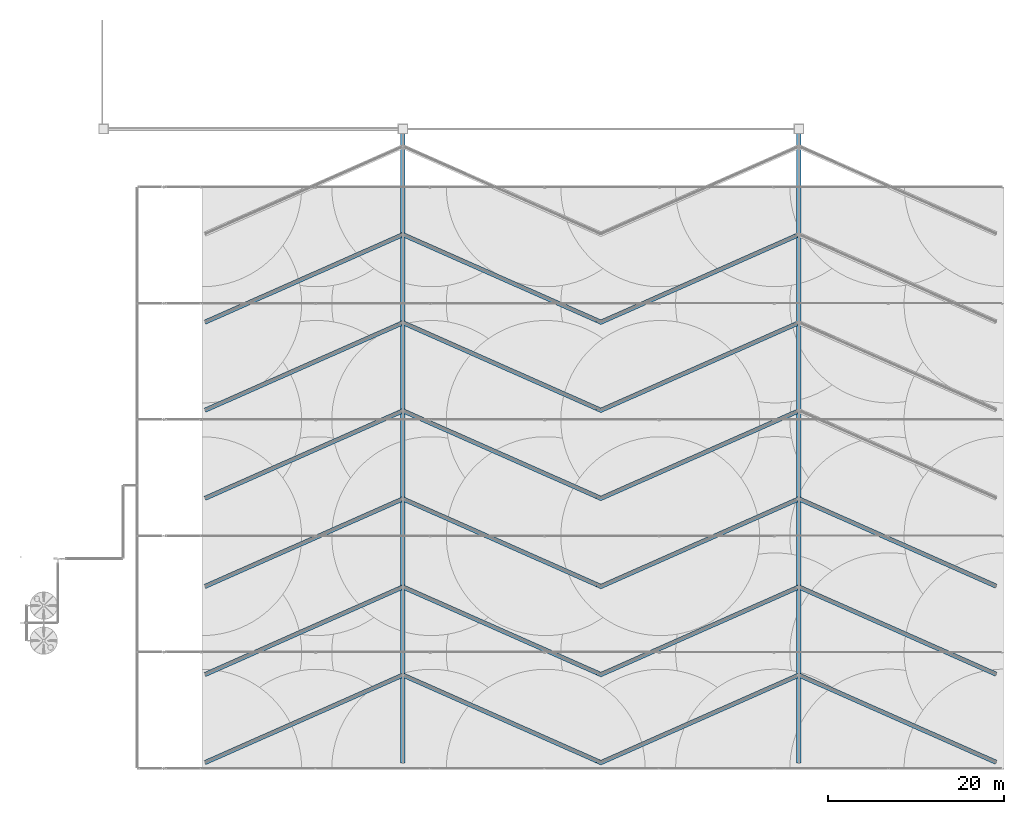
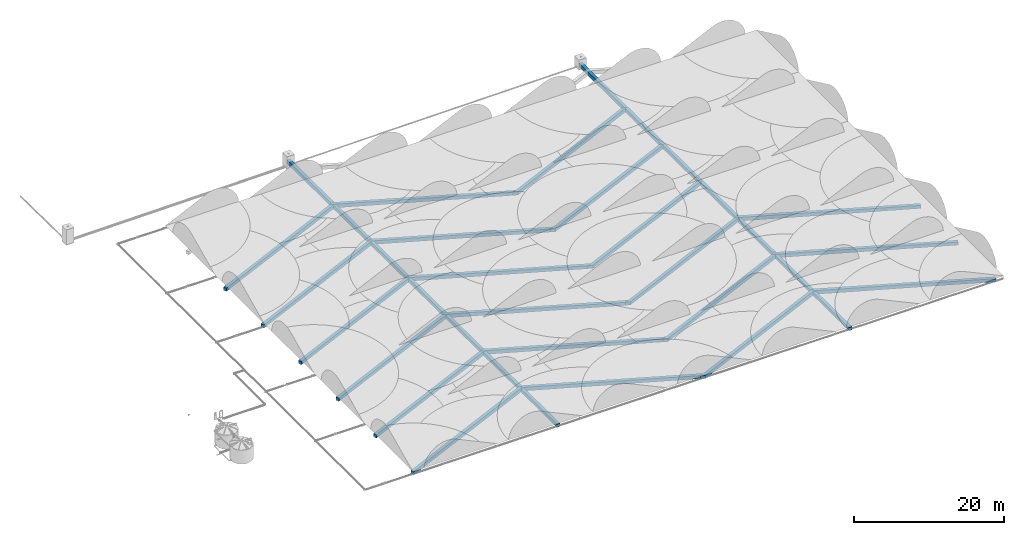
# One storey, part 1 of 166: 23 walls.
"""IFC2X3 building model written with IfcOpenShell, lengths in metres."""

from ifc_helpers import new_model, entity, si_unit, converted_unit, direction, frame, frame_2d, origin, place, context, subcontext, project, spatial, rectangle, extrude, clip, halfspace, faceted_brep, material, layer, layer_set, layer_usage, type_object, element, save


model = new_model("IFC2X3")

# Units and contexts
model_context = context("Model", 3, precision=1e-05, world=origin(), true_north=direction((6.123233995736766e-17, 1.0)))
body_context = subcontext(model_context, "Body", "Model", "MODEL_VIEW")
ifc_project = project(units=[si_unit("LENGTHUNIT", "METRE"), converted_unit("PLANEANGLEUNIT", "DEGREE", entity("IfcPlaneAngleMeasure", 0.017453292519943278), si_unit("PLANEANGLEUNIT", "RADIAN"), dimensions=[0, 0, 0, 0, 0, 0, 0]), si_unit("AREAUNIT", "SQUARE_METRE")], contexts=[model_context])

# Site, building, storey
site_placement = place(None, origin())
site = spatial("IfcSite", under=ifc_project, at=site_placement, Name="Default", CompositionType="ELEMENT")
building_placement = place(site_placement, origin())
building = spatial("IfcBuilding", under=site, at=building_placement, Name="CASA DE ACOLHIDA PARA IDOSOS", CompositionType="ELEMENT")
storey_placement = place(building_placement, frame((0.0, 0.0, -1.7499999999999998)))
storey = spatial("IfcBuildingStorey", under=building, at=storey_placement, Name="IMPLANTAÇÃO DRENAGEM", CompositionType="ELEMENT", Elevation=-1.7499999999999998)

# Walls
ifc_material = material(Name="Generic")
ifc_layer = layer(ifc_material, 0.49999999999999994)
ifc_layer_set = layer_set([ifc_layer], Name="Parede básica:BRITA - 40 CM")
ifc_layer_usage_1 = layer_usage(ifc_layer_set, "AXIS2", "NEGATIVE", 0.24999999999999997)
wall_type = type_object("IfcWallType", Name="Parede básica:BRITA - 40 CM", PredefinedType="STANDARD", material=ifc_layer_set)
wall_1_placement = place(storey_placement, frame((45.35555726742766, -16.046942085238, -0.9449877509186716), z_axis=(0.0, 0.0, 1.0), x_axis=(-0.9145357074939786, 0.404505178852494, 0.0)))
element("IfcWallStandardCase", 1, at=wall_1_placement, inside=storey, type_object=wall_type, material=ifc_layer_usage_1, Name="Parede básica:BRITA - 40 CM", ObjectType="Parede básica:BRITA - 40 CM", context=body_context, shape_type="Clipping", body=[
    clip(clip(extrude(rectangle(XDim=24.498775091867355, YDim=0.5000000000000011, at=frame_2d((12.249387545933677, 5.551115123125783e-16), x_axis=(-1.0, 0.0))), origin(), (0.0, 0.0, 1.0), 0.7449877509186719), halfspace(frame((0.0, -0.2499999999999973, 0.7449877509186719), z_axis=(0.005918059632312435, 0.0, 0.9999824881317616), x_axis=(0.0, 1.0, 0.0)), False)), halfspace(frame((24.498775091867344, -0.24999999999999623, 0.0), z_axis=(-0.009999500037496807, 0.0, -0.9999500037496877), x_axis=(0.0, 1.0, 0.0)), False)),
])
wall_2_placement = place(storey_placement, frame((45.35555726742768, -6.046942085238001, -1.043358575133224), z_axis=(0.0, 0.0, 1.0), x_axis=(-0.9145357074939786, 0.404505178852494, 0.0)))
element("IfcWall", 2, at=wall_2_placement, inside=storey, type_object=wall_type, Name="Parede básica:BRITA - 40 CM", ObjectType="Parede básica:BRITA - 40 CM", context=body_context, shape_type="Brep", body=[
    faceted_brep([(0.0, -0.2500000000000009, 0.2433585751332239), (24.31621854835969, -0.2500000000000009, 0.0), (24.31621854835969, -0.2500000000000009, 0.5244371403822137), (24.58958130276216, -0.2500000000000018, 0.5244371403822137), (24.58958130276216, -0.2500000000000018, 0.5977158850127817), (0.0, -0.24999999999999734, 0.7433585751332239), (0.0, 0.2499999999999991, 0.2433585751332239), (0.0, 0.2500000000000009, 0.7433585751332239), (25.04422344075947, 0.25, 0.5950230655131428), (25.044223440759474, 0.25000000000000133, 0.5244371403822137), (24.641790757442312, 0.25000000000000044, 0.5244371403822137), (24.368428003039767, 0.2499999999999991, 0.5244371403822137), (24.095065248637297, 0.25000000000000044, 0.5244371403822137), (24.095065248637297, 0.25000000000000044, 0.0022133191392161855), (24.77348640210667, -0.047747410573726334, 0.5244371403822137)], [[[0, 1, 2, 3, 4, 5]], [[6, 7, 8, 9, 10, 11, 12, 13]], [[0, 5, 7, 6]], [[1, 0, 6, 13]], [[5, 4, 8, 7]], [[1, 13, 12, 2]], [[4, 3, 14, 9, 8]], [[9, 14, 3, 2, 12, 11, 10]]]),
])
wall_3_placement = place(storey_placement, frame((45.35555726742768, 3.9530579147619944, -1.143358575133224), z_axis=(0.0, 0.0, 1.0), x_axis=(-0.9145357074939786, 0.404505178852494, 0.0)))
element("IfcWall", 3, at=wall_3_placement, inside=storey, type_object=wall_type, Name="Parede básica:BRITA - 40 CM", ObjectType="Parede básica:BRITA - 40 CM", context=body_context, shape_type="Brep", body=[
    faceted_brep([(0.0, -0.2500000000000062, 0.24335857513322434), (24.316218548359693, -0.2500000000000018, 0.0), (24.316218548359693, -0.25000000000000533, 0.5383267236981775), (24.589581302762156, -0.2500000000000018, 0.5383267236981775), (24.589581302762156, -0.2500000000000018, 0.5977158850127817), (0.0, -0.25000000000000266, 0.7433585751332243), (0.0, 0.2499999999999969, 0.24335857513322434), (0.0, 0.2500000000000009, 0.7433585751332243), (25.044223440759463, 0.24999999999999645, 0.5950230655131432), (25.044223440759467, 0.25, 0.5383267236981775), (24.641790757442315, 0.25, 0.5383267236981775), (24.36842800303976, 0.24999999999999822, 0.5383267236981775), (24.095065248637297, 0.24999999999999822, 0.5383267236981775), (24.095065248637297, 0.24999999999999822, 0.0022133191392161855), (24.77348640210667, -0.04774741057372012, 0.5383267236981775)], [[[0, 1, 2, 3, 4, 5]], [[6, 7, 8, 9, 10, 11, 12, 13]], [[0, 5, 7, 6]], [[1, 0, 6, 13]], [[5, 4, 8, 7]], [[1, 13, 12, 2]], [[4, 3, 14, 9, 8]], [[9, 14, 3, 2, 12, 11, 10]]]),
])
wall_4_placement = place(storey_placement, frame((-0.023279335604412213, -16.31453267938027, -0.9449877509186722), z_axis=(0.0, 0.0, 1.0), x_axis=(0.9145357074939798, 0.40450517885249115, 0.0)))
element("IfcWall", 4, at=wall_4_placement, inside=storey, type_object=wall_type, Name="Parede básica:BRITA - 40 CM", ObjectType="Parede básica:BRITA - 40 CM", context=body_context, shape_type="Brep", body=[
    faceted_brep([(0.45464213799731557, -0.25, 0.2460935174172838), (25.063993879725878, -0.25, 0.0), (25.063993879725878, -0.25, 0.600000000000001), (0.45464213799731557, -0.25, 0.7456421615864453), (0.0, 0.24999999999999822, 0.2506399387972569), (0.0, 0.2500000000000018, 0.7416426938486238), (0.0, 0.24999999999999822, 0.7483328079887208), (25.063993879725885, 0.24999999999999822, 0.600000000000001), (25.063993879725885, 0.24999999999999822, 0.0)], [[[0, 1, 2, 3]], [[4, 5, 6, 7, 8]], [[1, 0, 4, 8]], [[2, 1, 8, 7]], [[3, 2, 7, 6]], [[0, 3, 6, 5, 4]]]),
])
wall_5_placement = place(storey_placement, frame((-0.02327933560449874, -6.314532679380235, -1.0433649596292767), z_axis=(0.0, 0.0, 1.0), x_axis=(0.9145357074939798, 0.40450517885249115, 0.0)))
element("IfcWall", 5, at=wall_5_placement, inside=storey, type_object=wall_type, Name="Parede básica:BRITA - 40 CM", ObjectType="Parede básica:BRITA - 40 CM", context=body_context, shape_type="Brep", body=[
    faceted_brep([(0.45464213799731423, -0.2500000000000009, 0.24446728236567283), (24.756591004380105, -0.2500000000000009, 0.0022046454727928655), (24.756591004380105, -0.25000000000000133, 0.5244435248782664), (25.02995375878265, -0.2500000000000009, 0.5244435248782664), (25.02995375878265, -0.2500000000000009, 0.599029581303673), (0.45464213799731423, -0.2500000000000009, 0.7440173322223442), (0.0, 0.2499999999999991, 0.2489995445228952), (0.0, 0.2499999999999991, 0.7400303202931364), (0.0, 0.2500000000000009, 0.7466995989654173), (24.575311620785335, 0.24999999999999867, 0.601711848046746), (24.575311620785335, 0.24999999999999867, 0.5950294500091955), (24.575311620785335, 0.24999999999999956, 0.5244435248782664), (24.977744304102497, 0.24999999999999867, 0.5244435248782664), (24.977744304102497, 0.24999999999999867, 0.0), (24.84604865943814, -0.04774741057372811, 0.5244435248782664)], [[[0, 1, 2, 3, 4, 5]], [[6, 7, 8, 9, 10, 11, 12, 13]], [[1, 0, 6, 13]], [[5, 4, 9, 8]], [[1, 13, 12, 14, 2]], [[4, 3, 14, 11, 10, 9]], [[11, 14, 12]], [[14, 3, 2]], [[0, 5, 8, 7, 6]]]),
])
wall_6_placement = place(storey_placement, frame((-0.02327933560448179, 3.685467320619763, -1.1433649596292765), z_axis=(0.0, 0.0, 1.0), x_axis=(0.9145357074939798, 0.40450517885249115, 0.0)))
element("IfcWall", 6, at=wall_6_placement, inside=storey, type_object=wall_type, Name="Parede básica:BRITA - 40 CM", ObjectType="Parede básica:BRITA - 40 CM", context=body_context, shape_type="Brep", body=[
    faceted_brep([(0.4546421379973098, -0.25000000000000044, 0.24446728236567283), (24.756591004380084, -0.2500000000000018, 0.0022046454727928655), (24.756591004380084, -0.24999999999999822, 0.5383331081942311), (25.029953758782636, -0.2500000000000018, 0.5383331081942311), (25.029953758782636, -0.2500000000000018, 0.599029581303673), (0.4546421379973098, -0.25000000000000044, 0.7440173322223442), (0.0, 0.24999999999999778, 0.2489995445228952), (0.0, 0.24999999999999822, 0.7400303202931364), (0.0, 0.25, 0.7466995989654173), (24.575311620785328, 0.24999999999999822, 0.601711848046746), (24.575311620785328, 0.24999999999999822, 0.5950294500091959), (24.57531162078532, 0.25, 0.5383331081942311), (24.977744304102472, 0.24999999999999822, 0.5383331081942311), (24.977744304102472, 0.24999999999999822, 0.0), (24.84604865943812, -0.04774741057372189, 0.5383331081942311)], [[[0, 1, 2, 3, 4, 5]], [[6, 7, 8, 9, 10, 11, 12, 13]], [[1, 0, 6, 13]], [[5, 4, 9, 8]], [[1, 13, 12, 14, 2]], [[4, 3, 14, 11, 10, 9]], [[11, 14, 12]], [[14, 3, 2]], [[0, 5, 8, 7, 6]]]),
])
wall_7_placement = place(storey_placement, frame((-0.023279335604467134, 13.685467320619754, -1.2433649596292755), z_axis=(0.0, 0.0, 1.0), x_axis=(0.9145357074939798, 0.40450517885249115, 0.0)))
element("IfcWall", 7, at=wall_7_placement, inside=storey, type_object=wall_type, Name="Parede básica:BRITA - 40 CM", ObjectType="Parede básica:BRITA - 40 CM", context=body_context, shape_type="Brep", body=[
    faceted_brep([(0.4546421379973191, -0.24999999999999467, 0.24446728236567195), (24.75659100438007, -0.24999999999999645, 0.0022046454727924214), (24.75659100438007, -0.24999999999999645, 0.5522226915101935), (25.02995375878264, -0.25, 0.5522226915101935), (25.02995375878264, -0.25, 0.5990295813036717), (0.4546421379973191, -0.24999999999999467, 0.7440173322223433), (0.0, 0.25000000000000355, 0.24899954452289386), (0.0, 0.25000000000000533, 0.7400303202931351), (0.0, 0.25000000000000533, 0.7466995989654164), (24.575311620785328, 0.25, 0.6017118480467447), (24.575311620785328, 0.25, 0.5950294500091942), (24.57531162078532, 0.2500000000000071, 0.5522226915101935), (24.977744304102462, 0.25000000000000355, 0.5522226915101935), (24.977744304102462, 0.25000000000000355, 0.0), (24.846048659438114, -0.047747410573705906, 0.5522226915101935)], [[[0, 1, 2, 3, 4, 5]], [[6, 7, 8, 9, 10, 11, 12, 13]], [[1, 0, 6, 13]], [[5, 4, 9, 8]], [[1, 13, 12, 14, 2]], [[4, 3, 14, 11, 10, 9]], [[11, 14, 12]], [[14, 3, 2]], [[0, 5, 8, 7, 6]]]),
])
wall_8_placement = place(storey_placement, frame((-0.023279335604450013, 23.685467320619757, -1.3433649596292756), z_axis=(0.0, 0.0, 1.0), x_axis=(0.9145357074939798, 0.40450517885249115, 0.0)))
element("IfcWall", 8, at=wall_8_placement, inside=storey, type_object=wall_type, Name="Parede básica:BRITA - 40 CM", ObjectType="Parede básica:BRITA - 40 CM", context=body_context, shape_type="Brep", body=[
    faceted_brep([(0.4546421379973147, -0.24999999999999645, 0.24446728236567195), (24.756591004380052, -0.24999999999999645, 0.0022046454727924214), (24.756591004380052, -0.24999999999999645, 0.5661122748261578), (25.029953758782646, -0.24999999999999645, 0.5661122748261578), (25.029953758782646, -0.24999999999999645, 0.5990295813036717), (0.4546421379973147, -0.24999999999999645, 0.7440173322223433), (0.0, 0.25, 0.24899954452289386), (0.0, 0.24999999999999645, 0.7400303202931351), (0.0, 0.24999999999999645, 0.7466995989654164), (24.575311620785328, 0.25, 0.6017118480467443), (24.575311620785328, 0.25, 0.5950294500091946), (24.575311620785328, 0.25, 0.5661122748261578), (24.977744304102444, 0.25, 0.5661122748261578), (24.977744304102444, 0.25, 0.0), (24.846048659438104, -0.04774741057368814, 0.5661122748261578)], [[[0, 1, 2, 3, 4, 5]], [[6, 7, 8, 9, 10, 11, 12, 13]], [[1, 0, 6, 13]], [[5, 4, 9, 8]], [[1, 13, 12, 14, 2]], [[4, 3, 14, 11, 10, 9]], [[11, 14, 12]], [[14, 3, 2]], [[0, 5, 8, 7, 6]]]),
])
wall_9_placement = place(storey_placement, frame((-0.023279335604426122, 33.68546732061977, -1.4433649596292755), z_axis=(0.0, 0.0, 1.0), x_axis=(0.9145357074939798, 0.40450517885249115, 0.0)))
element("IfcWall", 9, at=wall_9_placement, inside=storey, type_object=wall_type, Name="Parede básica:BRITA - 40 CM", ObjectType="Parede básica:BRITA - 40 CM", context=body_context, shape_type="Brep", body=[
    faceted_brep([(0.4546421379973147, -0.25000000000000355, 0.24446728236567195), (24.756591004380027, -0.2500000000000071, 0.0022046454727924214), (24.756591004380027, -0.2500000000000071, 0.580001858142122), (25.02995375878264, -0.2500000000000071, 0.580001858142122), (25.02995375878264, -0.2500000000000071, 0.5990295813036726), (0.4546421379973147, -0.25000000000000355, 0.7440173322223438), (0.0, 0.2499999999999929, 0.24899954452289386), (0.0, 0.24999999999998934, 0.7400303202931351), (0.0, 0.24999999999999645, 0.7466995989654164), (24.575311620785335, 0.2499999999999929, 0.6017118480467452), (24.575311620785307, 0.2500000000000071, 0.580001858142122), (24.977744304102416, 0.2499999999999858, 0.580001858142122), (24.977744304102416, 0.2499999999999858, 0.0), (24.846048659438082, -0.047747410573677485, 0.580001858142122)], [[[0, 1, 2, 3, 4, 5]], [[6, 7, 8, 9, 10, 11, 12]], [[1, 0, 6, 12]], [[5, 4, 9, 8]], [[1, 12, 11, 13, 2]], [[4, 3, 13, 10, 9]], [[10, 13, 11]], [[13, 3, 2]], [[0, 5, 8, 7, 6]]]),
])
wall_10_placement = place(storey_placement, frame((0.3925071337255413, -16.041169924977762, -0.9449877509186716), z_axis=(0.0, 0.0, 1.0), x_axis=(-0.9145357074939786, 0.404505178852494, 0.0)))
element("IfcWall", 10, at=wall_10_placement, inside=storey, type_object=wall_type, Name="Parede básica:BRITA - 40 CM", ObjectType="Parede básica:BRITA - 40 CM", context=body_context, shape_type="Brep", body=[
    faceted_brep([(0.0, -0.2500000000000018, 0.2438819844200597), (24.38819844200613, -0.2500000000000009, 0.0), (24.38819844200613, -0.2500000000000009, 0.6000000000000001), (0.0, -0.2500000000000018, 0.7443333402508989), (0.4546421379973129, 0.25, 0.23933556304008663), (0.4546421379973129, 0.25, 0.25063993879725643), (0.45464213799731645, 0.2500000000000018, 0.7416426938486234), (24.38819844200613, 0.2499999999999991, 0.6000000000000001), (24.38819844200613, 0.2499999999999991, 0.0)], [[[0, 1, 2, 3]], [[4, 5, 6, 7, 8]], [[1, 0, 4, 8]], [[2, 1, 8, 7]], [[3, 2, 7, 6]], [[0, 3, 6, 5, 4]]]),
])
wall_11_placement = place(storey_placement, frame((0.3925071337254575, -6.041169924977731, -1.0433649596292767), z_axis=(0.0, 0.0, 1.0), x_axis=(-0.9145357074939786, 0.404505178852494, 0.0)))
element("IfcWall", 11, at=wall_11_placement, inside=storey, type_object=wall_type, Name="Parede básica:BRITA - 40 CM", ObjectType="Parede básica:BRITA - 40 CM", context=body_context, shape_type="Brep", body=[
    faceted_brep([(0.0, -0.2500000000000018, 0.2422626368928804), (24.301948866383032, -0.2500000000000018, 0.0), (24.301948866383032, -0.25, 0.5244516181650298), (24.57531162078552, -0.25, 0.5244516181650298), (24.57531162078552, -0.25, 0.5977248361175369), (0.0, -0.25, 0.742712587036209), (0.45464213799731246, 0.2499999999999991, 0.2377303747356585), (0.45464213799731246, 0.2499999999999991, 0.2489995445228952), (0.45464213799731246, 0.2499999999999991, 0.7400303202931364), (25.029953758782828, 0.24999999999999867, 0.5950425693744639), (25.029953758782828, 0.2499999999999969, 0.5244516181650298), (24.627521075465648, 0.24999999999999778, 0.5244516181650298), (24.354158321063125, 0.24999999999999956, 0.5244516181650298), (24.080795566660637, 0.24999999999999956, 0.5244516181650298), (24.080795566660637, 0.2499999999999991, 0.0022046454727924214), (24.75921672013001, -0.04774741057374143, 0.5244516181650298)], [[[0, 1, 2, 3, 4, 5]], [[6, 7, 8, 9, 10, 11, 12, 13, 14]], [[1, 0, 6, 14]], [[5, 4, 9, 8]], [[10, 15, 3, 2, 13, 12, 11]], [[1, 14, 13, 2]], [[4, 3, 15, 10, 9]], [[0, 5, 8, 7, 6]]]),
])
wall_12_placement = place(storey_placement, frame((0.3925071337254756, 3.9588300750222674, -1.1433649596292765), z_axis=(0.0, 0.0, 1.0), x_axis=(-0.9145357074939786, 0.404505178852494, 0.0)))
element("IfcWall", 12, at=wall_12_placement, inside=storey, type_object=wall_type, Name="Parede básica:BRITA - 40 CM", ObjectType="Parede básica:BRITA - 40 CM", context=body_context, shape_type="Brep", body=[
    faceted_brep([(0.0, -0.2500000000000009, 0.24226263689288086), (24.30194886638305, -0.2500000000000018, 0.0), (24.30194886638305, -0.2500000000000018, 0.5383412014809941), (24.57531162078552, -0.25, 0.5383412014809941), (24.57531162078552, -0.25, 0.5977248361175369), (0.0, -0.2500000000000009, 0.7427125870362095), (0.4546421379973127, 0.25000000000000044, 0.2377303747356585), (0.45464213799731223, 0.2500000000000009, 0.2489995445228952), (0.45464213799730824, 0.2499999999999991, 0.7400303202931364), (25.02995375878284, 0.25, 0.5950425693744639), (25.02995375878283, 0.24999999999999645, 0.5383412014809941), (24.627521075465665, 0.25, 0.5383412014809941), (24.354158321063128, 0.25, 0.5383412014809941), (24.080795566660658, 0.24999999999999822, 0.5383412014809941), (24.080795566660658, 0.24999999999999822, 0.0022046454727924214), (24.759216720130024, -0.047747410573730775, 0.5383412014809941)], [[[0, 1, 2, 3, 4, 5]], [[6, 7, 8, 9, 10, 11, 12, 13, 14]], [[1, 0, 6, 14]], [[5, 4, 9, 8]], [[10, 15, 3, 2, 13, 12, 11]], [[1, 14, 13, 2]], [[4, 3, 15, 10, 9]], [[0, 5, 8, 7, 6]]]),
])
wall_13_placement = place(storey_placement, frame((0.39250713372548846, 13.958830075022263, -1.2433649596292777), z_axis=(0.0, 0.0, 1.0), x_axis=(-0.9145357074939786, 0.404505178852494, 0.0)))
element("IfcWall", 13, at=wall_13_placement, inside=storey, type_object=wall_type, Name="Parede básica:BRITA - 40 CM", ObjectType="Parede básica:BRITA - 40 CM", context=body_context, shape_type="Brep", body=[
    faceted_brep([(0.0, -0.25, 0.24226263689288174), (24.301948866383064, -0.25000000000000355, 0.0), (24.301948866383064, -0.25000000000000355, 0.5522307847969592), (24.575311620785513, -0.25, 0.5522307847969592), (24.575311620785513, -0.25, 0.5977248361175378), (0.0, -0.25, 0.7427125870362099), (0.45464213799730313, 0.25, 0.23773037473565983), (0.45464213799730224, 0.2500000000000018, 0.24899954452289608), (0.4546421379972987, 0.25, 0.7400303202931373), (25.029953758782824, 0.25, 0.5950425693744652), (25.029953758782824, 0.24999999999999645, 0.5522307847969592), (24.62752107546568, 0.24999999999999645, 0.5522307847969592), (24.35415832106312, 0.25, 0.5522307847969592), (24.080795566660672, 0.24999999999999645, 0.5522307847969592), (24.080795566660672, 0.24999999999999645, 0.0022046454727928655), (24.75921672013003, -0.04774741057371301, 0.5522307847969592)], [[[0, 1, 2, 3, 4, 5]], [[6, 7, 8, 9, 10, 11, 12, 13, 14]], [[1, 0, 6, 14]], [[5, 4, 9, 8]], [[10, 15, 3, 2, 13, 12, 11]], [[1, 14, 13, 2]], [[4, 3, 15, 10, 9]], [[0, 5, 8, 7, 6]]]),
])
wall_14_placement = place(storey_placement, frame((0.3925071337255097, 23.958830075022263, -1.3433649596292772), z_axis=(0.0, 0.0, 1.0), x_axis=(-0.9145357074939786, 0.404505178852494, 0.0)))
element("IfcWall", 14, at=wall_14_placement, inside=storey, type_object=wall_type, Name="Parede básica:BRITA - 40 CM", ObjectType="Parede básica:BRITA - 40 CM", context=body_context, shape_type="Brep", body=[
    faceted_brep([(0.0, -0.25000000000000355, 0.2422626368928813), (24.30194886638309, -0.25, 0.0), (24.30194886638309, -0.25, 0.5661203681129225), (24.575311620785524, -0.25000000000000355, 0.5661203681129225), (24.575311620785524, -0.25000000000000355, 0.5977248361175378), (0.0, -0.25000000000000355, 0.7427125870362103), (0.45464213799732, 0.25, 0.2377303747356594), (0.45464213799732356, 0.25, 0.24899954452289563), (0.45464213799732, 0.25, 0.7400303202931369), (25.02995375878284, 0.24999999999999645, 0.5950425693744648), (25.02995375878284, 0.2499999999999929, 0.5661203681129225), (24.627521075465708, 0.2499999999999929, 0.5661203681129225), (24.35415832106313, 0.24999999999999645, 0.5661203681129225), (24.080795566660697, 0.24999999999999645, 0.5661203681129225), (24.080795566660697, 0.24999999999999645, 0.0022046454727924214), (24.75921672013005, -0.047747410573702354, 0.5661203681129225)], [[[0, 1, 2, 3, 4, 5]], [[6, 7, 8, 9, 10, 11, 12, 13, 14]], [[1, 0, 6, 14]], [[5, 4, 9, 8]], [[10, 15, 3, 2, 13, 12, 11]], [[1, 14, 13, 2]], [[4, 3, 15, 10, 9]], [[0, 5, 8, 7, 6]]]),
])
wall_15_placement = place(storey_placement, frame((0.3925071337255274, 33.95883007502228, -1.4433649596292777), z_axis=(0.0, 0.0, 1.0), x_axis=(-0.9145357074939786, 0.404505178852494, 0.0)))
element("IfcWall", 15, at=wall_15_placement, inside=storey, type_object=wall_type, Name="Parede básica:BRITA - 40 CM", ObjectType="Parede básica:BRITA - 40 CM", context=body_context, shape_type="Brep", body=[
    faceted_brep([(0.0, -0.24999999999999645, 0.24226263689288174), (24.301948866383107, -0.25, 0.0), (24.301948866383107, -0.25, 0.5800099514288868), (24.575311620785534, -0.25, 0.5800099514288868), (24.575311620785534, -0.25, 0.5977248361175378), (0.0, -0.24999999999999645, 0.7427125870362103), (0.45464213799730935, 0.25000000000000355, 0.23773037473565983), (0.45464213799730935, 0.25000000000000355, 0.24899954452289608), (0.45464213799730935, 0.25000000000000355, 0.7400303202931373), (25.02995375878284, 0.2499999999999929, 0.5950425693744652), (25.029953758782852, 0.2500000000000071, 0.5800099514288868), (24.627521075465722, 0.2500000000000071, 0.5800099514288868), (24.35415832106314, 0.25, 0.5800099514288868), (24.08079556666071, 0.2500000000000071, 0.5800099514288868), (24.08079556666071, 0.2500000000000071, 0.0022046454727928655), (24.75921672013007, -0.047747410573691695, 0.5800099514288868)], [[[0, 1, 2, 3, 4, 5]], [[6, 7, 8, 9, 10, 11, 12, 13, 14]], [[1, 0, 6, 14]], [[5, 4, 9, 8]], [[10, 15, 3, 2, 13, 12, 11]], [[1, 14, 13, 2]], [[4, 3, 15, 10, 9]], [[0, 5, 8, 7, 6]]]),
])
ifc_layer_usage_2 = layer_usage(ifc_layer_set, "AXIS2", "POSITIVE", -0.24999999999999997)
wall_16_placement = place(storey_placement, frame((-44.4563665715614, -16.085898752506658, -0.9449877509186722), z_axis=(0.0, 0.0, 1.0), x_axis=(0.9145357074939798, 0.40450517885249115, 0.0)))
element("IfcWallStandardCase", 16, at=wall_16_placement, inside=storey, type_object=wall_type, material=ifc_layer_usage_2, Name="Parede básica:BRITA - 40 CM", ObjectType="Parede básica:BRITA - 40 CM", context=body_context, shape_type="Clipping", body=[
    clip(clip(extrude(rectangle(XDim=24.498775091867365, YDim=0.5000000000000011, at=frame_2d((12.249387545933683, -1.0824674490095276e-15), x_axis=(-1.0, 0.0))), origin(), (0.0, 0.0, 1.0), 0.7449877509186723), halfspace(frame((0.0, -0.25000000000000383, 0.7449877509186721), z_axis=(0.005918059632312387, 0.0, 0.9999824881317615), x_axis=(0.0, 1.0, 0.0)), False)), halfspace(frame((24.498775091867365, -0.25000000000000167, 0.0), z_axis=(-0.009999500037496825, 0.0, -0.9999500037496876), x_axis=(0.0, 1.0, 0.0)), False)),
])
wall_17_placement = place(storey_placement, frame((-44.456366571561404, -6.085898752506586, -1.0433649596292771), z_axis=(0.0, 0.0, 1.0), x_axis=(0.9145357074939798, 0.40450517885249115, 0.0)))
element("IfcWall", 17, at=wall_17_placement, inside=storey, type_object=wall_type, Name="Parede básica:BRITA - 40 CM", ObjectType="Parede básica:BRITA - 40 CM", context=body_context, shape_type="Brep", body=[
    faceted_brep([(0.0, -0.2499999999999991, 0.24336495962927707), (24.19137221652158, -0.25000000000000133, 0.0022046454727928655), (24.19137221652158, -0.25000000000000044, 0.5244516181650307), (24.4647349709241, -0.2499999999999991, 0.5244516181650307), (24.4647349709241, -0.2499999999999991, 0.5990295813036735), (0.0, -0.25000000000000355, 0.7433649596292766), (0.0, 0.2500000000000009, 0.24336495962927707), (0.0, 0.2499999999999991, 0.7433649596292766), (24.010092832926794, 0.24999999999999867, 0.6017118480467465), (24.010092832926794, 0.24999999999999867, 0.5950425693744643), (24.010092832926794, 0.24999999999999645, 0.5244516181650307), (24.41252551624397, 0.24999999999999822, 0.5244516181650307), (24.41252551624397, 0.24999999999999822, 0.0), (24.28082987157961, -0.04774741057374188, 0.5244516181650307)], [[[0, 1, 2, 3, 4, 5]], [[6, 7, 8, 9, 10, 11, 12]], [[0, 5, 7, 6]], [[1, 0, 6, 12]], [[5, 4, 8, 7]], [[10, 13, 11]], [[1, 12, 11, 13, 2]], [[4, 3, 13, 10, 9, 8]], [[13, 3, 2]]]),
])
wall_18_placement = place(storey_placement, frame((-44.4563665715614, 3.914101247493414, -1.1433649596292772), z_axis=(0.0, 0.0, 1.0), x_axis=(0.9145357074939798, 0.40450517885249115, 0.0)))
element("IfcWall", 18, at=wall_18_placement, inside=storey, type_object=wall_type, Name="Parede básica:BRITA - 40 CM", ObjectType="Parede básica:BRITA - 40 CM", context=body_context, shape_type="Brep", body=[
    faceted_brep([(0.0, -0.2500000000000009, 0.2433649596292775), (24.191372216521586, -0.25000000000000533, 0.0022046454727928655), (24.191372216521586, -0.2500000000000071, 0.5383412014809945), (24.464734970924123, -0.2500000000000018, 0.5383412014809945), (24.464734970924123, -0.2500000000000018, 0.5990295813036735), (0.0, -0.2500000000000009, 0.7433649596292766), (0.0, 0.24999999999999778, 0.2433649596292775), (0.0, 0.24999999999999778, 0.7433649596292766), (24.01009283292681, 0.24999999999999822, 0.6017118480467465), (24.01009283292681, 0.24999999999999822, 0.5950425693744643), (24.010092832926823, 0.24999999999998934, 0.5383412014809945), (24.412525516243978, 0.24999999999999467, 0.5383412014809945), (24.412525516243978, 0.24999999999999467, 0.0), (24.28082987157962, -0.04774741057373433, 0.5383412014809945)], [[[0, 1, 2, 3, 4, 5]], [[6, 7, 8, 9, 10, 11, 12]], [[0, 5, 7, 6]], [[1, 0, 6, 12]], [[5, 4, 8, 7]], [[10, 13, 11]], [[1, 12, 11, 13, 2]], [[4, 3, 13, 10, 9, 8]], [[13, 3, 2]]]),
])
wall_19_placement = place(storey_placement, frame((-44.45636657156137, 13.914101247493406, -1.2433649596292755), z_axis=(0.0, 0.0, 1.0), x_axis=(0.9145357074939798, 0.40450517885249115, 0.0)))
element("IfcWall", 19, at=wall_19_placement, inside=storey, type_object=wall_type, Name="Parede básica:BRITA - 40 CM", ObjectType="Parede básica:BRITA - 40 CM", context=body_context, shape_type="Brep", body=[
    faceted_brep([(0.0, -0.25000000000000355, 0.24336495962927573), (24.191372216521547, -0.25000000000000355, 0.0022046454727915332), (24.191372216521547, -0.25000000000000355, 0.552230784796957), (24.464734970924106, -0.24999999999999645, 0.552230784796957), (24.464734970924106, -0.24999999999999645, 0.5990295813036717), (0.0, -0.25000000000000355, 0.7433649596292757), (0.0, 0.24999999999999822, 0.24336495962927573), (0.0, 0.24999999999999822, 0.7433649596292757), (24.0100928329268, 0.24999999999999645, 0.6017118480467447), (24.0100928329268, 0.24999999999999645, 0.595042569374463), (24.010092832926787, 0.2500000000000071, 0.552230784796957), (24.41252551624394, 0.2499999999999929, 0.552230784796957), (24.41252551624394, 0.2499999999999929, 0.0), (24.28082987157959, -0.04774741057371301, 0.552230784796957)], [[[0, 1, 2, 3, 4, 5]], [[6, 7, 8, 9, 10, 11, 12]], [[0, 5, 7, 6]], [[1, 0, 6, 12]], [[5, 4, 8, 7]], [[10, 13, 11]], [[1, 12, 11, 13, 2]], [[4, 3, 13, 10, 9, 8]], [[13, 3, 2]]]),
])
wall_20_placement = place(storey_placement, frame((-44.45636657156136, 23.914101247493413, -1.343364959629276), z_axis=(0.0, 0.0, 1.0), x_axis=(0.9145357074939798, 0.40450517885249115, 0.0)))
element("IfcWall", 20, at=wall_20_placement, inside=storey, type_object=wall_type, Name="Parede básica:BRITA - 40 CM", ObjectType="Parede básica:BRITA - 40 CM", context=body_context, shape_type="Brep", body=[
    faceted_brep([(0.0, -0.25, 0.24336495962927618), (24.19137221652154, -0.25000000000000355, 0.0022046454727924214), (24.191372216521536, -0.25000000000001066, 0.5661203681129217), (24.46473497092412, -0.25, 0.5661203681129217), (24.464734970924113, -0.25000000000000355, 0.5990295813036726), (0.0, -0.25, 0.7433649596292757), (0.0, 0.25, 0.24336495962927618), (0.0, 0.25, 0.7433649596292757), (24.0100928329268, 0.25, 0.6017118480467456), (24.0100928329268, 0.25, 0.5950425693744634), (24.01009283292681, 0.2499999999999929, 0.5661203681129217), (24.41252551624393, 0.2499999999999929, 0.5661203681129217), (24.41252551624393, 0.2499999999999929, 0.0), (24.280829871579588, -0.047747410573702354, 0.5661203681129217)], [[[0, 1, 2, 3, 4, 5]], [[6, 7, 8, 9, 10, 11, 12]], [[0, 5, 7, 6]], [[1, 0, 6, 12]], [[5, 4, 8, 7]], [[10, 13, 11]], [[1, 12, 11, 13, 2]], [[4, 3, 13, 10, 9, 8]], [[13, 3, 2]]]),
])
wall_21_placement = place(storey_placement, frame((-44.45636657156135, 33.91410124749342, -1.4433649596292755), z_axis=(0.0, 0.0, 1.0), x_axis=(0.9145357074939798, 0.40450517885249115, 0.0)))
element("IfcWall", 21, at=wall_21_placement, inside=storey, type_object=wall_type, Name="Parede básica:BRITA - 40 CM", ObjectType="Parede básica:BRITA - 40 CM", context=body_context, shape_type="Brep", body=[
    faceted_brep([(0.0, -0.2499999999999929, 0.24336495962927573), (24.191372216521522, -0.25, 0.0022046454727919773), (24.191372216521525, -0.2499999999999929, 0.5800099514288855), (24.464734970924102, -0.25, 0.5800099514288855), (24.464734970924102, -0.25, 0.5990295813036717), (0.0, -0.24999999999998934, 0.7433649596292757), (0.0, 0.25000000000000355, 0.24336495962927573), (0.0, 0.25000000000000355, 0.7433649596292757), (24.010092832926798, 0.25, 0.6017118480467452), (24.01009283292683, 0.24999999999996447, 0.5800099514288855), (24.412525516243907, 0.2500000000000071, 0.5800099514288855), (24.412525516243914, 0.25, 0.0), (24.28082987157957, -0.047747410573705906, 0.5800099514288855)], [[[0, 1, 2, 3, 4, 5]], [[6, 7, 8, 9, 10, 11]], [[0, 5, 7, 6]], [[1, 0, 6, 11]], [[5, 4, 8, 7]], [[9, 12, 10]], [[1, 11, 10, 12, 2]], [[4, 3, 12, 9, 8]], [[12, 3, 2]]]),
])
ifc_layer_usage_3 = layer_usage(ifc_layer_set, "AXIS2", "NEGATIVE", 0.24999999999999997)
wall_22_placement = place(storey_placement, frame((22.968633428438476, -16.14599780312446, -1.569964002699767), z_axis=(0.0, 0.0, 1.0), x_axis=(0.0, 1.0, 0.0)))
element("IfcWallStandardCase", 22, at=wall_22_placement, inside=storey, type_object=wall_type, material=ifc_layer_usage_3, Name="Parede básica:BRITA - 40 CM", ObjectType="Parede básica:BRITA - 40 CM", context=body_context, shape_type="Clipping", body=[
    clip(clip(extrude(rectangle(XDim=71.99640026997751, YDim=0.49999999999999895, at=frame_2d((35.99820013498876, 0.0), x_axis=(-1.0, 0.0))), origin(), (0.0, 0.0, 1.0), 1.2199640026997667), halfspace(frame((0.0, -0.24999999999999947, 1.2199640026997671), z_axis=(0.008610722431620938, 0.0, 0.9999629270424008), x_axis=(0.0, 1.0, 0.0)), False)), halfspace(frame((71.99640026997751, -0.24999999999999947, 0.0), z_axis=(-0.009999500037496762, 0.0, -0.9999500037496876), x_axis=(0.0, 1.0, 0.0)), False)),
])
ifc_layer_usage_4 = layer_usage(ifc_layer_set, "AXIS2", "NEGATIVE", 0.24999999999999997)
wall_23_placement = place(storey_placement, frame((-21.981366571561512, -16.14505792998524, -1.569964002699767), z_axis=(0.0, 0.0, 1.0), x_axis=(0.0, 1.0, 0.0)))
element("IfcWallStandardCase", 23, at=wall_23_placement, inside=storey, type_object=wall_type, material=ifc_layer_usage_4, Name="Parede básica:BRITA - 40 CM", ObjectType="Parede básica:BRITA - 40 CM", context=body_context, shape_type="Clipping", body=[
    clip(clip(extrude(rectangle(XDim=71.99640026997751, YDim=0.49999999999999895, at=frame_2d((35.99820013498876, 0.0), x_axis=(-1.0, 0.0))), origin(), (0.0, 0.0, 1.0), 1.2199640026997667), halfspace(frame((0.0, -0.24999999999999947, 1.2199640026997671), z_axis=(0.008610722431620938, 0.0, 0.9999629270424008), x_axis=(0.0, 1.0, 0.0)), False)), halfspace(frame((71.99640026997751, -0.24999999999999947, 0.0), z_axis=(-0.009999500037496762, 0.0, -0.9999500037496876), x_axis=(0.0, 1.0, 0.0)), False)),
])

save(model, "model.ifc")
